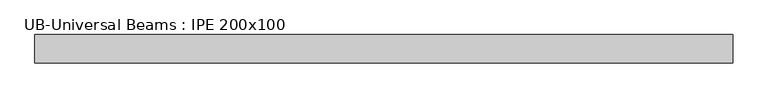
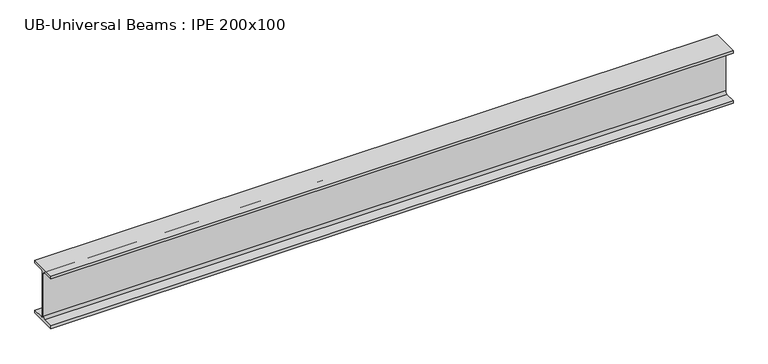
"""IFC4 building model written with IfcOpenShell, lengths in millimetres: beam geometry, UB-Universal Beams : IPE 200x100."""

from ifc_helpers import new_model, si_unit, point, frame, frame_2d, origin, place, context, project, spatial, polyline, circle_curve, trimmed, segment, composite_curve, outline, extrude, source, transform, mapped, element, save


def ub_universal_beams_ipe_200x100_3e5072df(model_context):
    return source(origin(), model_context, "Body", "SweptSolid", [
        extrude(outline(composite_curve([segment(polyline([(-50.0, -89.8), (-11.9, -89.8)]), True, "CONTINUOUS"), segment(trimmed(circle_curve(frame_2d((-11.9, -80.9)), 8.9), [point((-11.9, -89.8))], [point((-3.0, -80.9))], True, "CARTESIAN"), True, "CONTINUOUS"), segment(polyline([(-3.0, -80.9), (-3.0, 80.9)]), True, "CONTINUOUS"), segment(trimmed(circle_curve(frame_2d((-11.9, 80.9)), 8.9), [point((-3.0, 80.9))], [point((-11.9, 89.8))], True, "CARTESIAN"), True, "CONTINUOUS"), segment(polyline([(-11.9, 89.8), (-50.0, 89.8), (-50.0, 100.0), (50.0, 100.0), (50.0, 89.8), (11.9, 89.8)]), True, "CONTINUOUS"), segment(trimmed(circle_curve(frame_2d((11.9, 80.9)), 8.9), [point((11.9, 89.8))], [point((3.0, 80.9))], True, "CARTESIAN"), True, "CONTINUOUS"), segment(polyline([(3.0, 80.9), (3.0, -80.9)]), True, "CONTINUOUS"), segment(trimmed(circle_curve(frame_2d((11.9, -80.9)), 8.9), [point((3.0, -80.9))], [point((11.9, -89.8))], True, "CARTESIAN"), True, "CONTINUOUS"), segment(polyline([(11.9, -89.8), (50.0, -89.8), (50.0, -100.0), (-50.0, -100.0), (-50.0, -89.8)]), True, "CONTINUOUS")], self_intersect=False)), frame((-855.15, 0.0, 0.0), z_axis=(1.0, 0.0, 0.0), x_axis=(0.0, 1.0, 0.0)), (0.0, 0.0, 1.0), 2460.3),
    ])


if __name__ == "__main__":
    model = new_model("IFC4")
    model_context = context("Model", 3, world=origin())
    ifc_project = project(units=[si_unit("LENGTHUNIT", "METRE", prefix="MILLI")], contexts=[model_context])
    site = spatial("IfcSite", under=ifc_project)
    building = spatial("IfcBuilding", under=site)
    placement = place(None, origin())
    ub_universal_beams_ipe_200x100_shape = ub_universal_beams_ipe_200x100_3e5072df(model_context)
    element("IfcBeam", 1, ObjectType="UB-Universal Beams : IPE 200x100", at=placement, inside=building, context=model_context, shape_type="MappedRepresentation", body=[
        mapped(ub_universal_beams_ipe_200x100_shape, transform((0.0, 0.0, 0.0), x_axis=(1.0, 0.0, 0.0), y_axis=(0.0, 1.0, 0.0), z_axis=(0.0, 0.0, 1.0))),
    ])
    save(model, "model.ifc")
